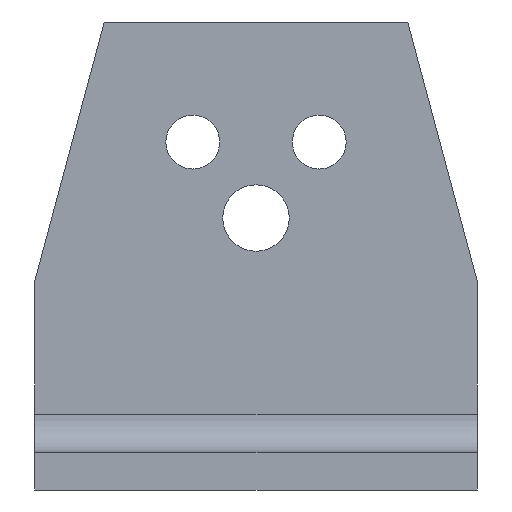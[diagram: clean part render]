
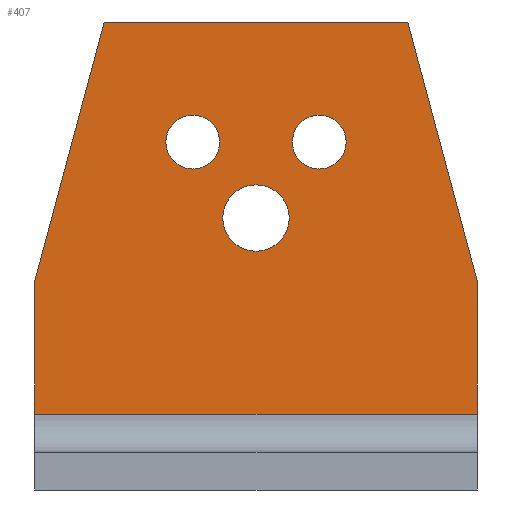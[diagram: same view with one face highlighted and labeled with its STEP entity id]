
A CAD part, front view. The second image highlights one B-rep face of the part: STEP entity #407.
In plain terms, the highlighted planar face has unit normal (0, -1, 0).
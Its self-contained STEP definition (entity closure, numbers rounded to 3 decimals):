
#72=CARTESIAN_POINT('',(23.971,-72.884,43.));
#73=VERTEX_POINT('',#72);
#89=CARTESIAN_POINT('',(13.471,-72.884,43.));
#90=VERTEX_POINT('',#89);
#97=CARTESIAN_POINT('',(18.721,-72.884,43.0));
#98=DIRECTION('',(0.0,1.0,0.0));
#99=DIRECTION('',(1.0,0.0,0.0));
#100=AXIS2_PLACEMENT_3D('',#97,#98,#99);
#101=CIRCLE('',#100,5.25);
#102=EDGE_CURVE('',#73,#90,#101,.T.);
#135=CARTESIAN_POINT('',(32.971,-72.884,55.));
#136=VERTEX_POINT('',#135);
#152=CARTESIAN_POINT('',(24.471,-72.884,55.));
#153=VERTEX_POINT('',#152);
#160=CARTESIAN_POINT('',(28.721,-72.884,55.));
#161=DIRECTION('',(0.0,1.0,0.0));
#162=DIRECTION('',(1.0,0.0,0.0));
#163=AXIS2_PLACEMENT_3D('',#160,#161,#162);
#164=CIRCLE('',#163,4.25);
#165=EDGE_CURVE('',#136,#153,#164,.T.);
#198=CARTESIAN_POINT('',(12.971,-72.884,55.));
#199=VERTEX_POINT('',#198);
#215=CARTESIAN_POINT('',(4.471,-72.884,55.));
#216=VERTEX_POINT('',#215);
#223=CARTESIAN_POINT('',(8.721,-72.884,55.));
#224=DIRECTION('',(0.0,1.0,0.0));
#225=DIRECTION('',(1.0,0.0,0.0));
#226=AXIS2_PLACEMENT_3D('',#223,#224,#225);
#227=CIRCLE('',#226,4.25);
#228=EDGE_CURVE('',#199,#216,#227,.T.);
#248=CARTESIAN_POINT('',(42.721,-72.884,74.));
#249=VERTEX_POINT('',#248);
#256=CARTESIAN_POINT('',(53.721,-72.884,32.947));
#257=VERTEX_POINT('',#256);
#258=CARTESIAN_POINT('',(53.721,-72.884,32.947));
#259=DIRECTION('',(-0.259,0.0,0.966));
#260=VECTOR('',#259,42.501);
#261=LINE('',#258,#260);
#262=EDGE_CURVE('',#257,#249,#261,.T.);
#279=CARTESIAN_POINT('',(53.721,-72.884,12.));
#280=VERTEX_POINT('',#279);
#281=CARTESIAN_POINT('',(53.721,-72.884,32.947));
#282=DIRECTION('',(0.0,0.0,-1.0));
#283=VECTOR('',#282,20.947);
#284=LINE('',#281,#283);
#285=EDGE_CURVE('',#257,#280,#284,.T.);
#338=CARTESIAN_POINT('',(18.721,-72.884,32.428));
#339=DIRECTION('',(0.0,-1.0,0.0));
#340=DIRECTION('',(1.0,0.0,0.0));
#341=AXIS2_PLACEMENT_3D('',#338,#339,#340);
#342=PLANE('',#341);
#343=ORIENTED_EDGE('',*,*,#262,.T.);
#344=CARTESIAN_POINT('',(-5.279,-72.884,74.));
#345=VERTEX_POINT('',#344);
#346=CARTESIAN_POINT('',(42.721,-72.884,74.));
#347=DIRECTION('',(-1.0,0.0,0.0));
#348=VECTOR('',#347,48.);
#349=LINE('',#346,#348);
#350=EDGE_CURVE('',#249,#345,#349,.T.);
#351=ORIENTED_EDGE('',*,*,#350,.T.);
#352=CARTESIAN_POINT('',(-16.279,-72.884,32.947));
#353=VERTEX_POINT('',#352);
#354=CARTESIAN_POINT('',(-5.279,-72.884,74.));
#355=DIRECTION('',(-0.259,0.0,-0.966));
#356=VECTOR('',#355,42.501);
#357=LINE('',#354,#356);
#358=EDGE_CURVE('',#345,#353,#357,.T.);
#359=ORIENTED_EDGE('',*,*,#358,.T.);
#360=CARTESIAN_POINT('',(-16.279,-72.884,12.));
#361=VERTEX_POINT('',#360);
#362=CARTESIAN_POINT('',(-16.279,-72.884,12.));
#363=DIRECTION('',(0.0,0.0,1.0));
#364=VECTOR('',#363,20.947);
#365=LINE('',#362,#364);
#366=EDGE_CURVE('',#361,#353,#365,.T.);
#367=ORIENTED_EDGE('',*,*,#366,.F.);
#368=CARTESIAN_POINT('',(-16.279,-72.884,12.));
#369=DIRECTION('',(1.0,0.0,0.0));
#370=VECTOR('',#369,70.);
#371=LINE('',#368,#370);
#372=EDGE_CURVE('',#361,#280,#371,.T.);
#373=ORIENTED_EDGE('',*,*,#372,.T.);
#374=ORIENTED_EDGE('',*,*,#285,.F.);
#375=EDGE_LOOP('',(#343,#351,#359,#367,#373,#374));
#376=FACE_OUTER_BOUND('',#375,.T.);
#377=ORIENTED_EDGE('',*,*,#102,.T.);
#378=CARTESIAN_POINT('',(18.721,-72.884,43.0));
#379=DIRECTION('',(0.0,1.0,0.0));
#380=DIRECTION('',(1.0,0.0,0.0));
#381=AXIS2_PLACEMENT_3D('',#378,#379,#380);
#382=CIRCLE('',#381,5.25);
#383=EDGE_CURVE('',#90,#73,#382,.T.);
#384=ORIENTED_EDGE('',*,*,#383,.T.);
#385=EDGE_LOOP('',(#377,#384));
#386=FACE_BOUND('',#385,.T.);
#387=ORIENTED_EDGE('',*,*,#165,.T.);
#388=CARTESIAN_POINT('',(28.721,-72.884,55.));
#389=DIRECTION('',(0.0,1.0,0.0));
#390=DIRECTION('',(1.0,0.0,0.0));
#391=AXIS2_PLACEMENT_3D('',#388,#389,#390);
#392=CIRCLE('',#391,4.25);
#393=EDGE_CURVE('',#153,#136,#392,.T.);
#394=ORIENTED_EDGE('',*,*,#393,.T.);
#395=EDGE_LOOP('',(#387,#394));
#396=FACE_BOUND('',#395,.T.);
#397=ORIENTED_EDGE('',*,*,#228,.T.);
#398=CARTESIAN_POINT('',(8.721,-72.884,55.));
#399=DIRECTION('',(0.0,1.0,0.0));
#400=DIRECTION('',(1.0,0.0,0.0));
#401=AXIS2_PLACEMENT_3D('',#398,#399,#400);
#402=CIRCLE('',#401,4.25);
#403=EDGE_CURVE('',#216,#199,#402,.T.);
#404=ORIENTED_EDGE('',*,*,#403,.T.);
#405=EDGE_LOOP('',(#397,#404));
#406=FACE_BOUND('',#405,.T.);
#407=ADVANCED_FACE('',(#376,#386,#396,#406),#342,.T.);
